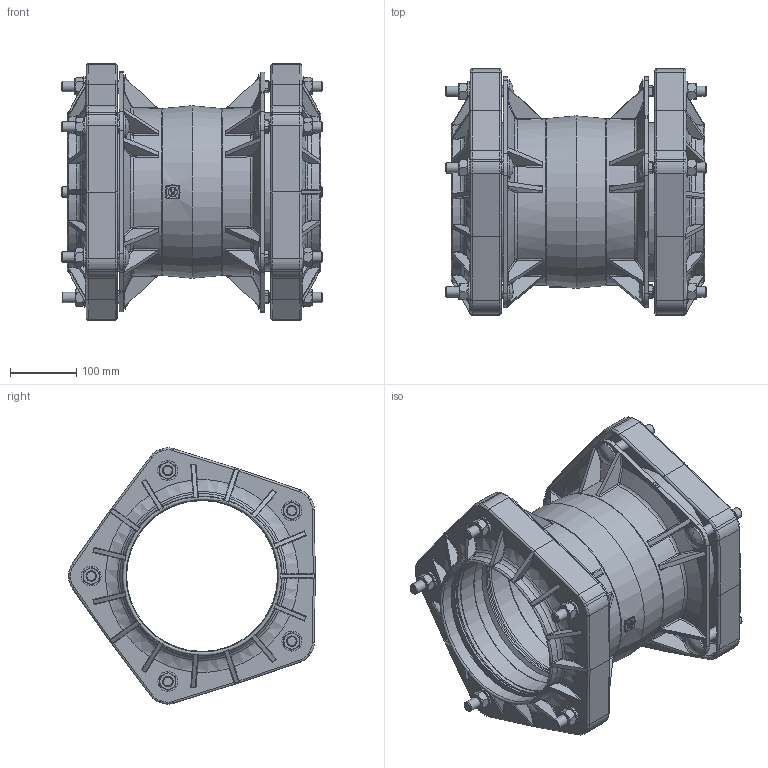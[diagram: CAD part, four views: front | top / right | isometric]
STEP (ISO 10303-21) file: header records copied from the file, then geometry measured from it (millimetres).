
FILE_DESCRIPTION((''),'2;1');
FILE_NAME('P:\Fastrack\54361_VIKING JOHNSON 3D\ULTRAGRIP\Component Parts\Components Built up\Coupling Assembly\175MM-UltraGrip-Coupling-Assembly.stp','2012-05-22T11:23:10',('dcole'),(''),'Autodesk Inventor 2008','Autodesk Inventor 2008','');
FILE_SCHEMA(('AUTOMOTIVE_DESIGN { 1 0 10303 214 1 1 1 1 }'));
Length unit declared in the file: millimetre
Products named in the file (1): 175MM-UltraGrip-Coupling-Assembly
Bounding box: 393 x 372.5 x 387.25 mm (x, y, z)
Volume: 4208091 mm3; surface area: 1335537.5 mm2
Topology: 1 solids, 1 shells, 2242 faces, 5684 edges, 3500 vertices
Faces by surface type: plane 688, bspline 683, cylinder 529, cone 231, torus 111
Full cylindrical faces by diameter (mm): 13 x1, 15.7 x20, 16 x10, 30 x10, 35.2 x10, 228 x2, 230 x8, 240 x2
Entity records: 111196 total; most frequent: CARTESIAN_POINT 59361, ORIENTED_EDGE 10960, DIRECTION 9365, EDGE_CURVE 5480, AXIS2_PLACEMENT_3D 3729, VERTEX_POINT 3428, EDGE_LOOP 2446, STYLED_ITEM 2239
